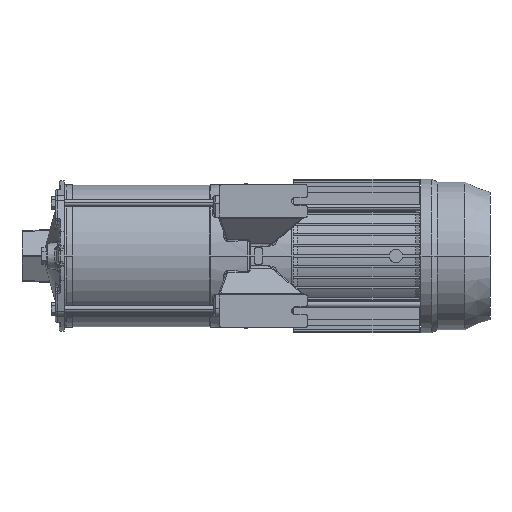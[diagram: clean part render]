
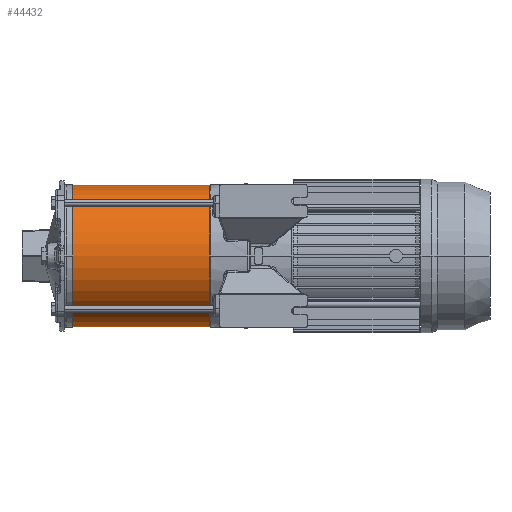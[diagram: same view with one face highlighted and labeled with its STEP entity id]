
A CAD part, front view. The second image highlights one B-rep face of the part: STEP entity #44432.
In plain terms, the highlighted cylindrical face has radius 64.5 mm (diameter 129 mm), a partial arc.
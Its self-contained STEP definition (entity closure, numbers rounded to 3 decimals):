
#44287=CARTESIAN_POINT('',(0.,0.,0.));
#44288=DIRECTION('',(0.,0.,1.));
#44289=DIRECTION('',(-1.,0.,0.));
#44290=AXIS2_PLACEMENT_3D('',#44287,#44288,#44289);
#44311=DIRECTION('',(0.,0.,1.));
#44312=VECTOR('',#44311,124.8);
#44313=CARTESIAN_POINT('',(64.5,0.,0.));
#44314=LINE('',#44313,#44312);
#44318=DIRECTION('',(0.,0.,1.));
#44319=VECTOR('',#44318,124.8);
#44320=CARTESIAN_POINT('',(-64.5,0.,0.));
#44321=LINE('',#44320,#44319);
#44333=CARTESIAN_POINT('',(0.,0.,124.8));
#44334=DIRECTION('',(0.,0.,1.));
#44335=DIRECTION('',(-1.,0.,0.));
#44336=AXIS2_PLACEMENT_3D('',#44333,#44334,#44335);
#44371=CARTESIAN_POINT('',(64.5,0.,0.));
#44372=CARTESIAN_POINT('',(-64.5,0.,0.));
#44373=VERTEX_POINT('',#44371);
#44374=VERTEX_POINT('',#44372);
#44379=CARTESIAN_POINT('',(64.5,0.,124.8));
#44380=CARTESIAN_POINT('',(-64.5,0.,124.8));
#44381=VERTEX_POINT('',#44379);
#44382=VERTEX_POINT('',#44380);
#44420=CARTESIAN_POINT('',(0.,0.,0.));
#44421=DIRECTION('',(0.,0.,1.));
#44422=DIRECTION('',(1.,0.,0.));
#44423=AXIS2_PLACEMENT_3D('',#44420,#44421,#44422);
#44424=CYLINDRICAL_SURFACE('',#44423,64.5);
#44425=ORIENTED_EDGE('',*,*,#44394,.F.);
#44426=ORIENTED_EDGE('',*,*,#44415,.T.);
#44428=ORIENTED_EDGE('',*,*,#44427,.T.);
#44429=ORIENTED_EDGE('',*,*,#44411,.F.);
#44430=EDGE_LOOP('',(#44425,#44426,#44428,#44429));
#44431=FACE_OUTER_BOUND('',#44430,.F.);
#44291=CIRCLE('',#44290,64.5);
#44337=CIRCLE('',#44336,64.5);
#44394=EDGE_CURVE('',#44374,#44373,#44291,.T.);
#44411=EDGE_CURVE('',#44373,#44381,#44314,.T.);
#44415=EDGE_CURVE('',#44374,#44382,#44321,.T.);
#44427=EDGE_CURVE('',#44382,#44381,#44337,.T.);
#44432=ADVANCED_FACE('',(#44431),#44424,.T.);
